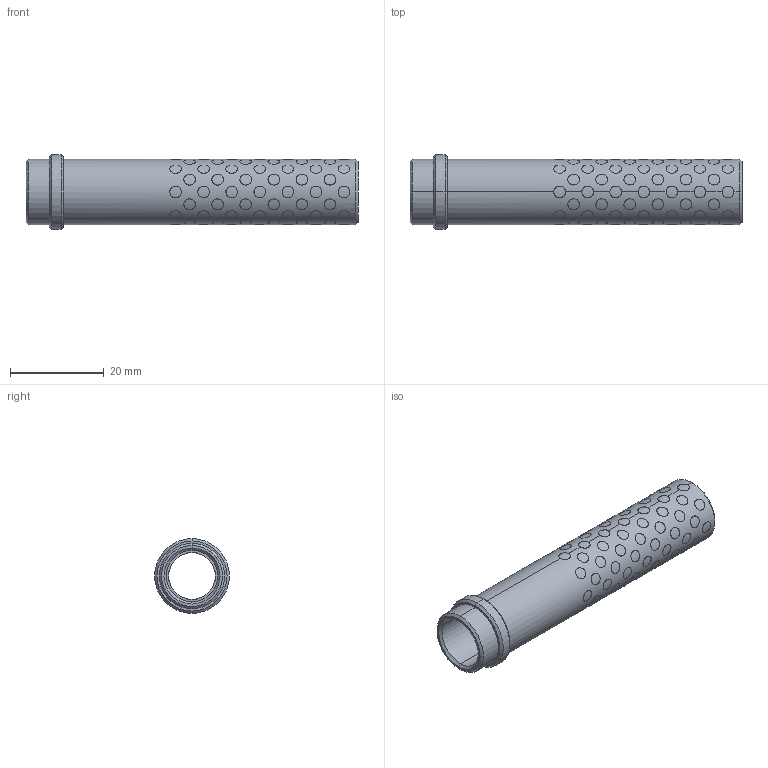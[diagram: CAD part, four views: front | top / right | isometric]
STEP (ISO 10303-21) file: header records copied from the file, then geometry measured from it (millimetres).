
FILE_DESCRIPTION((''),'2;1');
FILE_NAME('G31210066','2018-01-25T',('MANU'),(''),'PRO/ENGINEER BY PARAMETRIC TECHNOLOGY CORPORATION, 2012130','PRO/ENGINEER BY PARAMETRIC TECHNOLOGY CORPORATION, 2012130','');
FILE_SCHEMA(('CONFIG_CONTROL_DESIGN'));
Length unit declared in the file: millimetre
Products named in the file (1): G31210066
Bounding box: 71 x 16 x 16 mm (x, y, z)
Volume: 4972.4 mm3; surface area: 8915.3 mm2
Topology: 105 solids, 105 shells, 651 faces, 1386 edges, 920 vertices
Faces by surface type: cylinder 634, cone 12, plane 5
Entity records: 29598 total; most frequent: CARTESIAN_POINT 16925, ORIENTED_EDGE 2772, DIRECTION 1832, EDGE_CURVE 1386, VERTEX_POINT 920, B_SPLINE_CURVE_WITH_KNOTS 888, EDGE_LOOP 836, AXIS2_PLACEMENT_3D 683
